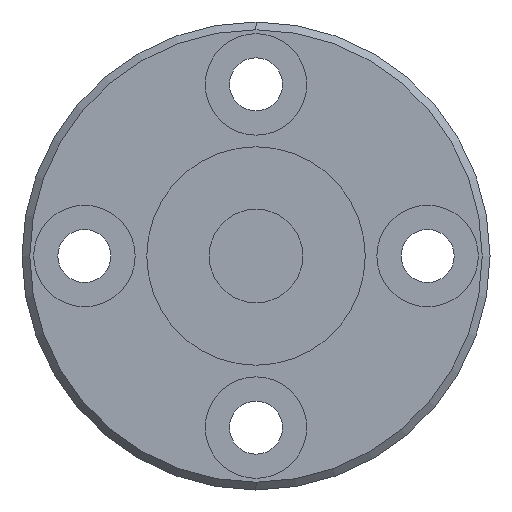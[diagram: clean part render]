
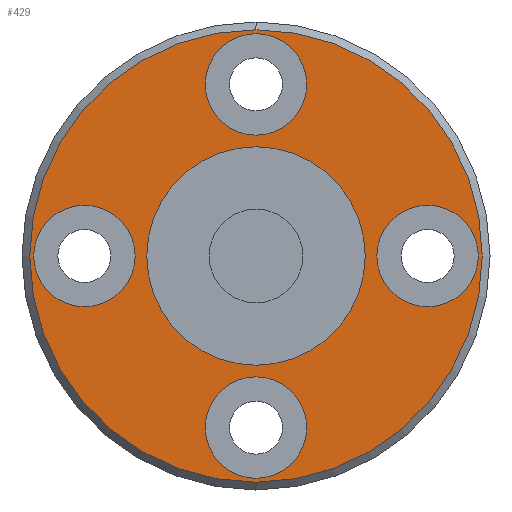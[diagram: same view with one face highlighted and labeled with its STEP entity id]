
A CAD part, left-side view. The second image highlights one B-rep face of the part: STEP entity #429.
In plain terms, the highlighted planar face has unit normal (-1, 0, 0).
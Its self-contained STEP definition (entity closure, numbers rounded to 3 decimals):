
#1 = VERTEX_POINT ( 'NONE', #395 ) ;
#10 = AXIS2_PLACEMENT_3D ( 'NONE', #2112, #293, #497 ) ;
#34 = AXIS2_PLACEMENT_3D ( 'NONE', #2095, #985, #1534 ) ;
#91 = DIRECTION ( 'NONE',  ( -1., 0., 0. ) ) ;
#97 = ORIENTED_EDGE ( 'NONE', *, *, #894, .F. ) ;
#103 = DIRECTION ( 'NONE',  ( 0., 1., 0. ) ) ;
#130 = AXIS2_PLACEMENT_3D ( 'NONE', #1195, #91, #1552 ) ;
#181 = EDGE_CURVE ( 'NONE', #1011, #1354, #1684, .T. ) ;
#185 = CARTESIAN_POINT ( 'NONE',  ( 0., 0., 0. ) ) ;
#197 = ORIENTED_EDGE ( 'NONE', *, *, #988, .F. ) ;
#198 = AXIS2_PLACEMENT_3D ( 'NONE', #1526, #1016, #2110 ) ;
#220 = CARTESIAN_POINT ( 'NONE',  ( 0., -11., 3.25 ) ) ;
#224 = DIRECTION ( 'NONE',  ( 0., -1., 0. ) ) ;
#226 = CARTESIAN_POINT ( 'NONE',  ( 0., 11., 3.25 ) ) ;
#237 = AXIS2_PLACEMENT_3D ( 'NONE', #384, #720, #1959 ) ;
#259 = FACE_BOUND ( 'NONE', #1679, .T. ) ;
#293 = DIRECTION ( 'NONE',  ( -1., 0., 0. ) ) ;
#368 = DIRECTION ( 'NONE',  ( 0., 0., 1. ) ) ;
#374 = CARTESIAN_POINT ( 'NONE',  ( 0., 0., -14.25 ) ) ;
#384 = CARTESIAN_POINT ( 'NONE',  ( 0., -11., 0. ) ) ;
#394 = CARTESIAN_POINT ( 'NONE',  ( 0., 0., -7.75 ) ) ;
#395 = CARTESIAN_POINT ( 'NONE',  ( 0., 0., -7. ) ) ;
#405 = CIRCLE ( 'NONE', #2133, 3.25 ) ;
#429 = ADVANCED_FACE ( 'NONE', ( #1631, #2336, #1986, #1090, #735, #259 ), #639, .F. ) ;
#441 = DIRECTION ( 'NONE',  ( 0., 1., 0. ) ) ;
#456 = DIRECTION ( 'NONE',  ( -1., 0., 0. ) ) ;
#457 = DIRECTION ( 'NONE',  ( 0., 0., 1. ) ) ;
#463 = ORIENTED_EDGE ( 'NONE', *, *, #2239, .F. ) ;
#488 = DIRECTION ( 'NONE',  ( -1., 0., 0. ) ) ;
#497 = DIRECTION ( 'NONE',  ( 0., 0., -1. ) ) ;
#535 = CARTESIAN_POINT ( 'NONE',  ( 0., 0., 11. ) ) ;
#538 = ORIENTED_EDGE ( 'NONE', *, *, #181, .T. ) ;
#548 = EDGE_LOOP ( 'NONE', ( #1378, #2061 ) ) ;
#549 = EDGE_CURVE ( 'NONE', #1760, #1599, #646, .T. ) ;
#589 = CARTESIAN_POINT ( 'NONE',  ( 0., -11., -3.25 ) ) ;
#597 = AXIS2_PLACEMENT_3D ( 'NONE', #535, #1254, #2341 ) ;
#639 = PLANE ( 'NONE',  #34 ) ;
#646 = CIRCLE ( 'NONE', #1935, 3.25 ) ;
#653 = ORIENTED_EDGE ( 'NONE', *, *, #1488, .T. ) ;
#681 = ORIENTED_EDGE ( 'NONE', *, *, #1700, .F. ) ;
#716 = ORIENTED_EDGE ( 'NONE', *, *, #1465, .F. ) ;
#720 = DIRECTION ( 'NONE',  ( -1., 0., 0. ) ) ;
#735 = FACE_BOUND ( 'NONE', #548, .T. ) ;
#750 = AXIS2_PLACEMENT_3D ( 'NONE', #2052, #2044, #441 ) ;
#764 = EDGE_CURVE ( 'NONE', #1576, #1757, #1591, .T. ) ;
#778 = CIRCLE ( 'NONE', #1197, 7. ) ;
#861 = CIRCLE ( 'NONE', #2054, 7. ) ;
#894 = EDGE_CURVE ( 'NONE', #1822, #1033, #937, .T. ) ;
#937 = CIRCLE ( 'NONE', #1320, 3.25 ) ;
#978 = CARTESIAN_POINT ( 'NONE',  ( 0., 0., 14.25 ) ) ;
#985 = DIRECTION ( 'NONE',  ( 1., 0., 0. ) ) ;
#988 = EDGE_CURVE ( 'NONE', #1599, #1760, #1125, .T. ) ;
#997 = CIRCLE ( 'NONE', #237, 3.25 ) ;
#1011 = VERTEX_POINT ( 'NONE', #1150 ) ;
#1013 = CIRCLE ( 'NONE', #597, 3.25 ) ;
#1016 = DIRECTION ( 'NONE',  ( -1., 0., 0. ) ) ;
#1033 = VERTEX_POINT ( 'NONE', #1890 ) ;
#1090 = FACE_BOUND ( 'NONE', #1187, .T. ) ;
#1125 = CIRCLE ( 'NONE', #750, 3.25 ) ;
#1146 = CARTESIAN_POINT ( 'NONE',  ( 0., 0., -14.5 ) ) ;
#1150 = CARTESIAN_POINT ( 'NONE',  ( 0., 0., 14.5 ) ) ;
#1187 = EDGE_LOOP ( 'NONE', ( #1626, #197 ) ) ;
#1195 = CARTESIAN_POINT ( 'NONE',  ( 0., 11., 0. ) ) ;
#1197 = AXIS2_PLACEMENT_3D ( 'NONE', #185, #1827, #1425 ) ;
#1231 = EDGE_CURVE ( 'NONE', #1033, #1822, #1013, .T. ) ;
#1254 = DIRECTION ( 'NONE',  ( -1., 0., 0. ) ) ;
#1279 = EDGE_LOOP ( 'NONE', ( #463, #716 ) ) ;
#1320 = AXIS2_PLACEMENT_3D ( 'NONE', #2192, #1673, #224 ) ;
#1354 = VERTEX_POINT ( 'NONE', #1146 ) ;
#1378 = ORIENTED_EDGE ( 'NONE', *, *, #2019, .F. ) ;
#1396 = VERTEX_POINT ( 'NONE', #220 ) ;
#1425 = DIRECTION ( 'NONE',  ( 0., 0., 1. ) ) ;
#1465 = EDGE_CURVE ( 'NONE', #1747, #1396, #405, .T. ) ;
#1488 = EDGE_CURVE ( 'NONE', #1354, #1011, #1866, .T. ) ;
#1501 = CIRCLE ( 'NONE', #130, 3.25 ) ;
#1526 = CARTESIAN_POINT ( 'NONE',  ( 0., 0., 0. ) ) ;
#1534 = DIRECTION ( 'NONE',  ( 0., 0., -1. ) ) ;
#1552 = DIRECTION ( 'NONE',  ( 0., 0., 1. ) ) ;
#1557 = ORIENTED_EDGE ( 'NONE', *, *, #1231, .F. ) ;
#1576 = VERTEX_POINT ( 'NONE', #1654 ) ;
#1591 = CIRCLE ( 'NONE', #2027, 3.25 ) ;
#1599 = VERTEX_POINT ( 'NONE', #374 ) ;
#1626 = ORIENTED_EDGE ( 'NONE', *, *, #549, .F. ) ;
#1631 = FACE_OUTER_BOUND ( 'NONE', #2024, .T. ) ;
#1654 = CARTESIAN_POINT ( 'NONE',  ( 0., 11., -3.25 ) ) ;
#1673 = DIRECTION ( 'NONE',  ( -1., 0., 0. ) ) ;
#1679 = EDGE_LOOP ( 'NONE', ( #1810, #681 ) ) ;
#1684 = CIRCLE ( 'NONE', #198, 14.5 ) ;
#1700 = EDGE_CURVE ( 'NONE', #1, #2033, #778, .T. ) ;
#1746 = EDGE_LOOP ( 'NONE', ( #97, #1557 ) ) ;
#1747 = VERTEX_POINT ( 'NONE', #589 ) ;
#1757 = VERTEX_POINT ( 'NONE', #226 ) ;
#1760 = VERTEX_POINT ( 'NONE', #394 ) ;
#1810 = ORIENTED_EDGE ( 'NONE', *, *, #1973, .F. ) ;
#1822 = VERTEX_POINT ( 'NONE', #978 ) ;
#1827 = DIRECTION ( 'NONE',  ( -1., 0., 0. ) ) ;
#1866 = CIRCLE ( 'NONE', #10, 14.5 ) ;
#1890 = CARTESIAN_POINT ( 'NONE',  ( 0., 0., 7.75 ) ) ;
#1894 = CARTESIAN_POINT ( 'NONE',  ( 0., 0., 0. ) ) ;
#1909 = CARTESIAN_POINT ( 'NONE',  ( 0., 0., -11. ) ) ;
#1915 = CARTESIAN_POINT ( 'NONE',  ( 0., -11., 0. ) ) ;
#1935 = AXIS2_PLACEMENT_3D ( 'NONE', #1909, #456, #103 ) ;
#1937 = DIRECTION ( 'NONE',  ( 0., 0., -1. ) ) ;
#1959 = DIRECTION ( 'NONE',  ( 0., 0., -1. ) ) ;
#1973 = EDGE_CURVE ( 'NONE', #2033, #1, #861, .T. ) ;
#1982 = CARTESIAN_POINT ( 'NONE',  ( 0., 11., 0. ) ) ;
#1986 = FACE_BOUND ( 'NONE', #1279, .T. ) ;
#2019 = EDGE_CURVE ( 'NONE', #1757, #1576, #1501, .T. ) ;
#2024 = EDGE_LOOP ( 'NONE', ( #653, #538 ) ) ;
#2027 = AXIS2_PLACEMENT_3D ( 'NONE', #1982, #2300, #368 ) ;
#2033 = VERTEX_POINT ( 'NONE', #2259 ) ;
#2044 = DIRECTION ( 'NONE',  ( -1., 0., 0. ) ) ;
#2052 = CARTESIAN_POINT ( 'NONE',  ( 0., 0., -11. ) ) ;
#2054 = AXIS2_PLACEMENT_3D ( 'NONE', #1894, #2066, #457 ) ;
#2061 = ORIENTED_EDGE ( 'NONE', *, *, #764, .F. ) ;
#2066 = DIRECTION ( 'NONE',  ( -1., 0., 0. ) ) ;
#2095 = CARTESIAN_POINT ( 'NONE',  ( 0., 15., 0. ) ) ;
#2110 = DIRECTION ( 'NONE',  ( 0., 0., -1. ) ) ;
#2112 = CARTESIAN_POINT ( 'NONE',  ( 0., 0., 0. ) ) ;
#2133 = AXIS2_PLACEMENT_3D ( 'NONE', #1915, #488, #1937 ) ;
#2192 = CARTESIAN_POINT ( 'NONE',  ( 0., 0., 11. ) ) ;
#2239 = EDGE_CURVE ( 'NONE', #1396, #1747, #997, .T. ) ;
#2259 = CARTESIAN_POINT ( 'NONE',  ( 0., 0., 7. ) ) ;
#2300 = DIRECTION ( 'NONE',  ( -1., 0., 0. ) ) ;
#2336 = FACE_BOUND ( 'NONE', #1746, .T. ) ;
#2341 = DIRECTION ( 'NONE',  ( 0., -1., 0. ) ) ;
